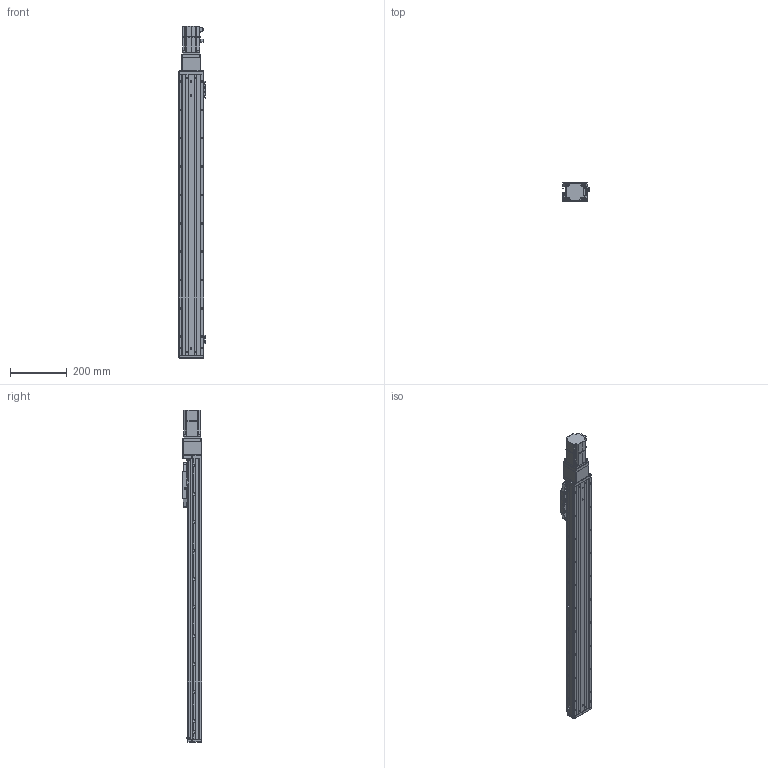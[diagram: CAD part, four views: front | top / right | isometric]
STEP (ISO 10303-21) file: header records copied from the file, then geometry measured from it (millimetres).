
FILE_DESCRIPTION (( 'STEP AP203' ), '1' );
FILE_NAME ('CTHA86-800-BC-M20-C4L.step', '2022-04-26T00:48:19', ( '微软用户' ), ( '微软中国' ), 'SwSTEP 2.0', 'SolidWorks 2020', '' );
FILE_SCHEMA (( 'CONFIG_CONTROL_DESIGN' ));
Length unit declared in the file: millimetre
Products named in the file (22): CTHA86-013; CTHA86-002; KTHA86-001_990; GBT77-2000 M3×3; CTHA86-027; CTHA86-031; KTHA86-004; GBT 70.1-M3×20; CTHA86-006-1_CTHA86-006-2; CTHA86-030; KTHA86-005; GBT70.1 M5℅16; _X2_4E0983F1_X0_200W_1; CTHA86-800-BC-M20-C4L; GB¨uT 70.2-M3¡Á5_M3¡Á6; GBT 70.1-M3×16; EE_SX911P_R; GBT 70.1-M3℅6; CTHA60-017; CTHA60-016; GBT 70.3-M3℅6; CTHA60-021
Assembly tree (65 placements, depth 2):
  CTHA86-800-BC-M20-C4L
    KTHA86-001_990
    KTHA86-004
    KTHA86-005
    GB¨uT 70.2-M3¡Á5_M3¡Á6  x10
    EE_SX911P_R  x3
    CTHA60-017  x3
    CTHA60-021  x2
    GBT77-2000 M3×3  x6
    GBT 70.1-M3×20
    GBT70.1 M5℅16  x14
    GBT 70.1-M3×16
    GBT 70.1-M3℅6  x6
    CTHA60-016  x2
    CTHA86-013
    CTHA86-027
    CTHA86-006-1_CTHA86-006-2
    _X2_4E0983F1_X0_200W_1
    GBT 70.3-M3℅6  x6
    CTHA86-002
    CTHA86-031
    CTHA86-030  x2
Bounding box: 93.82 x 68 x 1170.5 mm (x, y, z)
Volume: 3870036.7 mm3; surface area: 678326.3 mm2
Topology: 67 solids, 67 shells, 2774 faces, 6639 edges, 4084 vertices
Faces by surface type: plane 1452, cylinder 715, cone 394, torus 120, bspline 69, sphere 24
Entity records: 49567 total; most frequent: CARTESIAN_POINT 9184, DIRECTION 7818, ORIENTED_EDGE 7534, EDGE_CURVE 3767, AXIS2_PLACEMENT_3D 2654, LINE 2510, VECTOR 2510, VERTEX_POINT 2362
